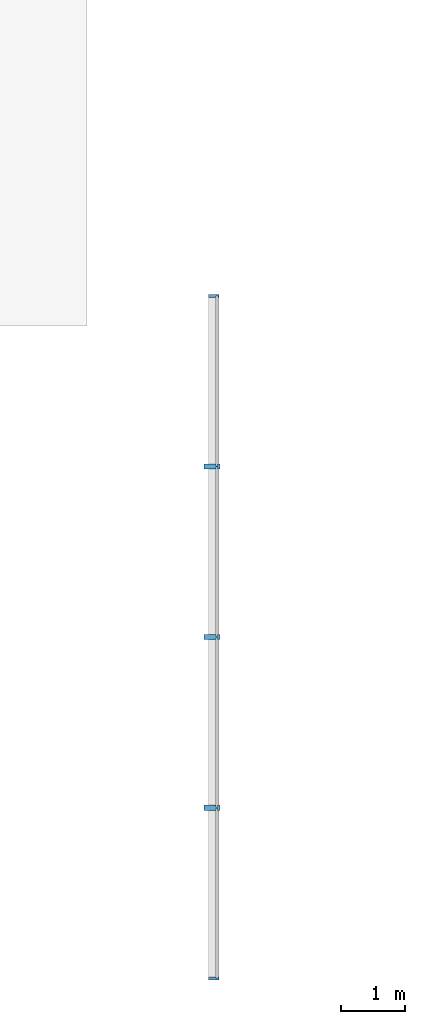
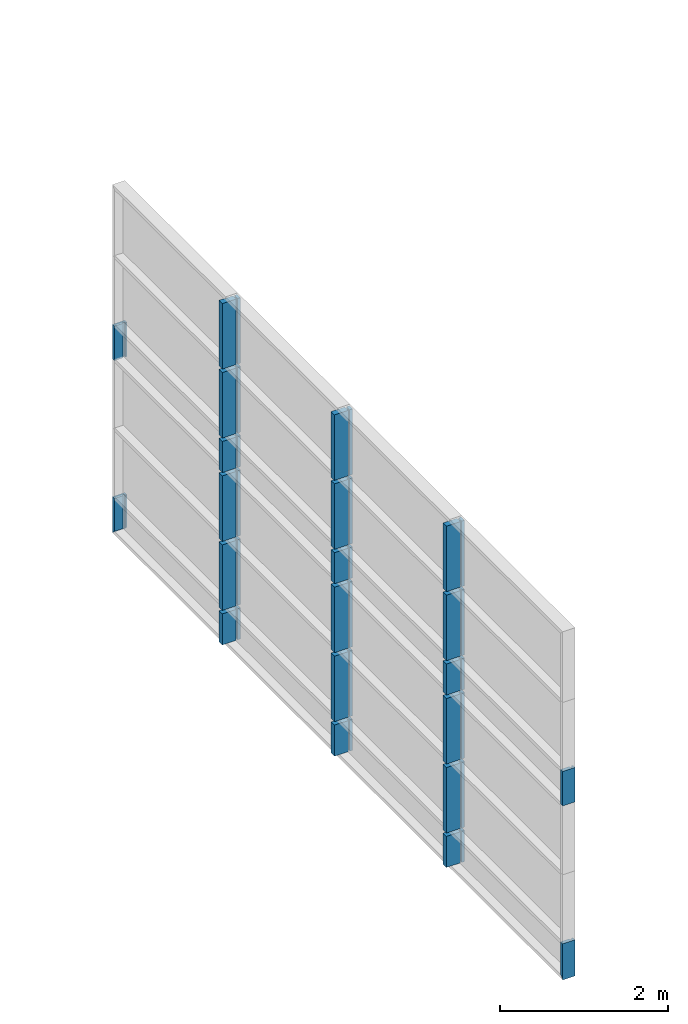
# One storey, part 12 of 19: 22 building element parts, 1 element without a shape of its own.
"""IFC4 building model written with IfcOpenShell, lengths in millimetres."""

from ifc_helpers import new_model, entity, si_unit, converted_unit, derived_unit, direction, frame, origin_with_axes, place, context, subcontext, project, spatial, triangles, material, element, aggregate, save


model = new_model("IFC4")

# Units and contexts
model_context = context("Model", 3, precision=1e-05, world=origin_with_axes(), true_north=direction((0.0, 1.0)))
body_context = subcontext(model_context, "Body", "Model", "MODEL_VIEW")
ifc_project = project(units=[si_unit("LENGTHUNIT", "METRE", prefix="MILLI"), si_unit("AREAUNIT", "SQUARE_METRE"), si_unit("VOLUMEUNIT", "CUBIC_METRE"), converted_unit("PLANEANGLEUNIT", "DEGREE", entity("IfcLengthMeasure", 0.017453), si_unit("PLANEANGLEUNIT", "RADIAN"), dimensions=[0, 0, 0, 0, 0, 0, 0]), si_unit("SOLIDANGLEUNIT", "STERADIAN"), si_unit("MASSUNIT", "GRAM"), si_unit("TIMEUNIT", "SECOND"), si_unit("THERMODYNAMICTEMPERATUREUNIT", "DEGREE_CELSIUS"), si_unit("LUMINOUSINTENSITYUNIT", "LUMEN"), si_unit("POWERUNIT", "WATT"), derived_unit("THERMALTRANSMITTANCEUNIT", [(si_unit("POWERUNIT", "WATT"), 1), (si_unit("THERMODYNAMICTEMPERATUREUNIT", "KELVIN"), -1), (si_unit("AREAUNIT", "SQUARE_METRE"), -1)])], contexts=[model_context])

# Site, building, storey
site_placement = place(None, origin_with_axes())
site = spatial("IfcSite", under=ifc_project, at=site_placement, Name="Default Site", CompositionType="ELEMENT")
building_placement = place(site_placement, origin_with_axes())
building = spatial("IfcBuilding", under=site, at=building_placement, Name="Default Building", CompositionType="ELEMENT")
storey_placement = place(building_placement, frame((0.0, 0.0, 3000.0), z_axis=(0.0, 0.0, 1.0), x_axis=(1.0, 0.0, 0.0)))
storey = spatial("IfcBuildingStorey", under=building, at=storey_placement, Name="EG - Story", CompositionType="ELEMENT", Elevation=3000.0)

# Curtain wall, building element parts
curtain_wall_placement = place(storey_placement, origin_with_axes())
curtain_wall = element("IfcCurtainWall", 1, at=curtain_wall_placement, inside=storey, Name="Fassade-013", PredefinedType="NOTDEFINED")
ifc_material = material(Name="Blech")
building_element_part_1_placement = place(curtain_wall_placement, frame((51421.391327, -49908.012838, 0.0), z_axis=(0.0, 0.0, 1.0), x_axis=(1.0, 0.0, 0.0)))
building_element_part_1 = element("IfcBuildingElementPart", 2, at=building_element_part_1_placement, material=ifc_material, Name="Blech", PredefinedType="NOTDEFINED", context=body_context, shape_type="Tessellation", body=[
    triangles([(35.0, -1356.249, 500.0), (35.0, -1306.249, 500.0), (15.0, -1306.249, 500.0), (15.0, -1326.249, 500.0), (-14.999, -1326.249, 500.0), (-132.999, -1306.249, 500.0), (-132.999, -1356.249, 500.0), (-14.999, -1306.249, 500.0), (-14.999, -1326.249, 5.0), (-14.999, -1306.249, 25.0), (-132.999, -1306.249, 25.0), (-132.999, -1356.249, -24.999), (35.0, -1356.249, -24.999), (35.0, -1306.249, 25.0), (15.0, -1306.249, 25.0), (15.0, -1326.249, 5.0)], [[1, 2, 3], [1, 3, 4], [1, 4, 5], [1, 5, 6], [1, 6, 7], [8, 6, 5], [5, 9, 10], [5, 10, 8], [10, 11, 6], [10, 6, 8], [6, 11, 12], [6, 12, 7], [7, 12, 13], [7, 13, 1], [1, 13, 14], [1, 14, 2], [3, 2, 14], [3, 14, 15], [15, 16, 4], [15, 4, 3], [4, 16, 9], [4, 9, 5], [16, 9, 12], [16, 12, 13], [16, 13, 14], [16, 14, 15], [11, 12, 9], [11, 9, 10]], closed=False),
])
building_element_part_2_placement = place(curtain_wall_placement, frame((51421.391327, -49908.012838, 0.0), z_axis=(0.0, 0.0, 1.0), x_axis=(1.0, 0.0, 0.0)))
building_element_part_2 = element("IfcBuildingElementPart", 3, at=building_element_part_2_placement, material=ifc_material, Name="Blech", PredefinedType="NOTDEFINED", context=body_context, shape_type="Tessellation", body=[
    triangles([(50.0, 1371.25, 475.0), (10.0, 1371.25, 475.0), (50.0, 1291.25, 475.0), (10.0, 1341.25, 475.0), (10.0, 1321.25, 475.0), (-9.999, 1341.25, 475.0), (-9.999, 1321.25, 475.0), (-9.999, 1291.25, 475.0), (-9.999, 1371.25, 475.0), (-199.999, 1371.25, 475.0), (-199.999, 1291.25, 475.0), (10.0, 1291.25, 475.0), (-9.999, 1341.25, 25.0), (-9.999, 1371.25, 25.0), (-199.999, 1371.25, 25.0), (-199.999, 1291.25, 25.0), (-9.999, 1291.25, 25.0), (-9.999, 1321.25, 25.0), (10.0, 1321.25, 25.0), (10.0, 1291.25, 25.0), (50.0, 1291.25, 25.0), (50.0, 1371.25, 25.0), (10.0, 1371.25, 25.0), (10.0, 1341.25, 25.0)], [[1, 2, 3], [3, 2, 4], [3, 4, 5], [5, 4, 6], [5, 6, 7], [8, 9, 10], [8, 10, 11], [3, 5, 12], [9, 6, 13], [9, 13, 14], [9, 14, 15], [9, 15, 10], [10, 15, 16], [10, 16, 11], [8, 11, 16], [8, 16, 17], [8, 17, 18], [8, 18, 7], [7, 18, 19], [7, 19, 5], [12, 5, 19], [12, 19, 20], [20, 21, 3], [20, 3, 12], [3, 21, 22], [3, 22, 1], [23, 2, 1], [23, 1, 22], [4, 2, 23], [4, 23, 24], [6, 4, 24], [6, 24, 13], [21, 20, 22], [22, 20, 19], [22, 19, 24], [24, 19, 18], [24, 18, 13], [14, 17, 16], [14, 16, 15], [22, 24, 23]], closed=False),
])
building_element_part_3_placement = place(curtain_wall_placement, frame((51421.391327, -49908.012838, 0.0), z_axis=(0.0, 0.0, 1.0), x_axis=(1.0, 0.0, 0.0)))
building_element_part_3 = element("IfcBuildingElementPart", 4, at=building_element_part_3_placement, material=ifc_material, Name="Blech", PredefinedType="NOTDEFINED", context=body_context, shape_type="Tessellation", body=[
    triangles([(50.0, 4033.75, 475.0), (10.0, 4033.75, 475.0), (50.0, 3953.75, 475.0), (10.0, 4003.75, 475.0), (10.0, 3983.75, 475.0), (-9.999, 4003.75, 475.0), (-9.999, 3983.75, 475.0), (-9.999, 3953.75, 475.0), (-9.999, 4033.75, 475.0), (-199.999, 4033.75, 475.0), (-199.999, 3953.75, 475.0), (10.0, 3953.75, 475.0), (-9.999, 4003.75, 25.0), (-9.999, 4033.75, 25.0), (-199.999, 4033.75, 25.0), (-199.999, 3953.75, 25.0), (-9.999, 3953.75, 25.0), (-9.999, 3983.75, 25.0), (10.0, 3983.75, 25.0), (10.0, 3953.75, 25.0), (50.0, 3953.75, 25.0), (50.0, 4033.75, 25.0), (10.0, 4033.75, 25.0), (10.0, 4003.75, 25.0)], [[1, 2, 3], [3, 2, 4], [3, 4, 5], [5, 4, 6], [5, 6, 7], [8, 9, 10], [8, 10, 11], [3, 5, 12], [9, 6, 13], [9, 13, 14], [9, 14, 15], [9, 15, 10], [10, 15, 16], [10, 16, 11], [8, 11, 16], [8, 16, 17], [8, 17, 18], [8, 18, 7], [7, 18, 19], [7, 19, 5], [12, 5, 19], [12, 19, 20], [20, 21, 3], [20, 3, 12], [3, 21, 22], [3, 22, 1], [23, 2, 1], [23, 1, 22], [4, 2, 23], [4, 23, 24], [6, 4, 24], [6, 24, 13], [21, 20, 22], [22, 20, 19], [22, 19, 24], [24, 19, 18], [24, 18, 13], [14, 17, 16], [14, 16, 15], [22, 24, 23]], closed=False),
])
building_element_part_4_placement = place(curtain_wall_placement, frame((51421.391327, -49908.012838, 0.0), z_axis=(0.0, 0.0, 1.0), x_axis=(1.0, 0.0, 0.0)))
building_element_part_4 = element("IfcBuildingElementPart", 5, at=building_element_part_4_placement, material=ifc_material, Name="Blech", PredefinedType="NOTDEFINED", context=body_context, shape_type="Tessellation", body=[
    triangles([(15.0, 9293.75, 500.0), (15.0, 9313.75, 500.0), (35.0, 9343.75, 500.0), (-14.999, 9313.75, 500.0), (-132.999, 9293.75, 500.0), (-14.999, 9293.75, 500.0), (-132.999, 9343.75, 500.0), (35.0, 9293.75, 500.0), (-14.999, 9313.75, 5.0), (15.0, 9313.75, 5.0), (15.0, 9293.75, 25.0), (35.0, 9293.75, 25.0), (35.0, 9343.75, -24.999), (-132.999, 9343.75, -24.999), (-132.999, 9293.75, 25.0), (-14.999, 9293.75, 25.0)], [[1, 2, 3], [3, 2, 4], [3, 4, 5], [5, 4, 6], [3, 5, 7], [1, 3, 8], [2, 4, 9], [2, 9, 10], [11, 1, 2], [11, 2, 10], [1, 11, 12], [1, 12, 8], [3, 8, 12], [3, 12, 13], [7, 3, 13], [7, 13, 14], [5, 7, 14], [5, 14, 15], [16, 6, 5], [16, 5, 15], [4, 6, 16], [4, 16, 9], [16, 15, 9], [9, 15, 14], [9, 14, 10], [10, 14, 13], [10, 13, 12], [10, 12, 11]], closed=False),
])
building_element_part_5_placement = place(curtain_wall_placement, frame((51421.391327, -49908.012838, 0.0), z_axis=(0.0, 0.0, 1.0), x_axis=(1.0, 0.0, 0.0)))
building_element_part_5 = element("IfcBuildingElementPart", 6, at=building_element_part_5_placement, material=ifc_material, Name="Blech", PredefinedType="NOTDEFINED", context=body_context, shape_type="Tessellation", body=[
    triangles([(50.0, 6696.25, 475.0), (10.0, 6696.25, 475.0), (50.0, 6616.25, 475.0), (10.0, 6666.25, 475.0), (10.0, 6646.25, 475.0), (-9.999, 6666.25, 475.0), (-9.999, 6646.25, 475.0), (-9.999, 6616.25, 475.0), (-9.999, 6696.25, 475.0), (-199.999, 6696.25, 475.0), (-199.999, 6616.25, 475.0), (10.0, 6616.25, 475.0), (-9.999, 6666.25, 25.0), (-9.999, 6696.25, 25.0), (-199.999, 6696.25, 25.0), (-199.999, 6616.25, 25.0), (-9.999, 6616.25, 25.0), (-9.999, 6646.25, 25.0), (10.0, 6646.25, 25.0), (10.0, 6616.25, 25.0), (50.0, 6616.25, 25.0), (50.0, 6696.25, 25.0), (10.0, 6696.25, 25.0), (10.0, 6666.25, 25.0)], [[1, 2, 3], [3, 2, 4], [3, 4, 5], [5, 4, 6], [5, 6, 7], [8, 9, 10], [8, 10, 11], [3, 5, 12], [9, 6, 13], [9, 13, 14], [9, 14, 15], [9, 15, 10], [10, 15, 16], [10, 16, 11], [8, 11, 16], [8, 16, 17], [8, 17, 18], [8, 18, 7], [7, 18, 19], [7, 19, 5], [12, 5, 19], [12, 19, 20], [20, 21, 3], [20, 3, 12], [3, 21, 22], [3, 22, 1], [23, 2, 1], [23, 1, 22], [4, 2, 23], [4, 23, 24], [6, 4, 24], [6, 24, 13], [21, 20, 22], [22, 20, 19], [22, 19, 24], [24, 19, 18], [24, 18, 13], [14, 17, 16], [14, 16, 15], [22, 24, 23]], closed=False),
])
building_element_part_6_placement = place(curtain_wall_placement, frame((51421.391327, -49908.012838, 0.0), z_axis=(0.0, 0.0, 1.0), x_axis=(1.0, 0.0, 0.0)))
building_element_part_6 = element("IfcBuildingElementPart", 7, at=building_element_part_6_placement, material=ifc_material, Name="Blech", PredefinedType="NOTDEFINED", context=body_context, shape_type="Tessellation", body=[
    triangles([(50.0, 1371.25, 1475.0), (10.0, 1371.25, 1475.0), (50.0, 1291.25, 1475.0), (10.0, 1341.25, 1475.0), (10.0, 1321.25, 1475.0), (-9.999, 1341.25, 1475.0), (-9.999, 1321.25, 1475.0), (-9.999, 1291.25, 1475.0), (-9.999, 1371.25, 1475.0), (-199.999, 1371.25, 1475.0), (-199.999, 1291.25, 1475.0), (10.0, 1291.25, 1475.0), (-9.999, 1341.25, 525.0), (-9.999, 1371.25, 525.0), (-199.999, 1371.25, 525.0), (-199.999, 1291.25, 525.0), (-9.999, 1291.25, 525.0), (-9.999, 1321.25, 525.0), (10.0, 1321.25, 525.0), (10.0, 1291.25, 525.0), (50.0, 1291.25, 525.0), (50.0, 1371.25, 525.0), (10.0, 1371.25, 525.0), (10.0, 1341.25, 525.0)], [[1, 2, 3], [3, 2, 4], [3, 4, 5], [5, 4, 6], [5, 6, 7], [8, 9, 10], [8, 10, 11], [3, 5, 12], [9, 6, 13], [9, 13, 14], [9, 14, 15], [9, 15, 10], [10, 15, 16], [10, 16, 11], [8, 11, 16], [8, 16, 17], [8, 17, 18], [8, 18, 7], [7, 18, 19], [7, 19, 5], [12, 5, 19], [12, 19, 20], [20, 21, 3], [20, 3, 12], [3, 21, 22], [3, 22, 1], [23, 2, 1], [23, 1, 22], [4, 2, 23], [4, 23, 24], [6, 4, 24], [6, 24, 13], [21, 20, 22], [22, 20, 19], [22, 19, 24], [24, 19, 18], [24, 18, 13], [14, 17, 16], [14, 16, 15], [22, 24, 23]], closed=False),
])
building_element_part_7_placement = place(curtain_wall_placement, frame((51421.391327, -49908.012838, 0.0), z_axis=(0.0, 0.0, 1.0), x_axis=(1.0, 0.0, 0.0)))
building_element_part_7 = element("IfcBuildingElementPart", 8, at=building_element_part_7_placement, material=ifc_material, Name="Blech", PredefinedType="NOTDEFINED", context=body_context, shape_type="Tessellation", body=[
    triangles([(50.0, 4033.75, 1475.0), (10.0, 4033.75, 1475.0), (50.0, 3953.75, 1475.0), (10.0, 4003.75, 1475.0), (10.0, 3983.75, 1475.0), (-9.999, 4003.75, 1475.0), (-9.999, 3983.75, 1475.0), (-9.999, 3953.75, 1475.0), (-9.999, 4033.75, 1475.0), (-199.999, 4033.75, 1475.0), (-199.999, 3953.75, 1475.0), (10.0, 3953.75, 1475.0), (-9.999, 4003.75, 525.0), (-9.999, 4033.75, 525.0), (-199.999, 4033.75, 525.0), (-199.999, 3953.75, 525.0), (-9.999, 3953.75, 525.0), (-9.999, 3983.75, 525.0), (10.0, 3983.75, 525.0), (10.0, 3953.75, 525.0), (50.0, 3953.75, 525.0), (50.0, 4033.75, 525.0), (10.0, 4033.75, 525.0), (10.0, 4003.75, 525.0)], [[1, 2, 3], [3, 2, 4], [3, 4, 5], [5, 4, 6], [5, 6, 7], [8, 9, 10], [8, 10, 11], [3, 5, 12], [9, 6, 13], [9, 13, 14], [9, 14, 15], [9, 15, 10], [10, 15, 16], [10, 16, 11], [8, 11, 16], [8, 16, 17], [8, 17, 18], [8, 18, 7], [7, 18, 19], [7, 19, 5], [12, 5, 19], [12, 19, 20], [20, 21, 3], [20, 3, 12], [3, 21, 22], [3, 22, 1], [23, 2, 1], [23, 1, 22], [4, 2, 23], [4, 23, 24], [6, 4, 24], [6, 24, 13], [21, 20, 22], [22, 20, 19], [22, 19, 24], [24, 19, 18], [24, 18, 13], [14, 17, 16], [14, 16, 15], [22, 24, 23]], closed=False),
])
building_element_part_8_placement = place(curtain_wall_placement, frame((51421.391327, -49908.012838, 0.0), z_axis=(0.0, 0.0, 1.0), x_axis=(1.0, 0.0, 0.0)))
building_element_part_8 = element("IfcBuildingElementPart", 9, at=building_element_part_8_placement, material=ifc_material, Name="Blech", PredefinedType="NOTDEFINED", context=body_context, shape_type="Tessellation", body=[
    triangles([(50.0, 6696.25, 1475.0), (10.0, 6696.25, 1475.0), (50.0, 6616.25, 1475.0), (10.0, 6666.25, 1475.0), (10.0, 6646.25, 1475.0), (-9.999, 6666.25, 1475.0), (-9.999, 6646.25, 1475.0), (-9.999, 6616.25, 1475.0), (-9.999, 6696.25, 1475.0), (-199.999, 6696.25, 1475.0), (-199.999, 6616.25, 1475.0), (10.0, 6616.25, 1475.0), (-9.999, 6666.25, 525.0), (-9.999, 6696.25, 525.0), (-199.999, 6696.25, 525.0), (-199.999, 6616.25, 525.0), (-9.999, 6616.25, 525.0), (-9.999, 6646.25, 525.0), (10.0, 6646.25, 525.0), (10.0, 6616.25, 525.0), (50.0, 6616.25, 525.0), (50.0, 6696.25, 525.0), (10.0, 6696.25, 525.0), (10.0, 6666.25, 525.0)], [[1, 2, 3], [3, 2, 4], [3, 4, 5], [5, 4, 6], [5, 6, 7], [8, 9, 10], [8, 10, 11], [3, 5, 12], [9, 6, 13], [9, 13, 14], [9, 14, 15], [9, 15, 10], [10, 15, 16], [10, 16, 11], [8, 11, 16], [8, 16, 17], [8, 17, 18], [8, 18, 7], [7, 18, 19], [7, 19, 5], [12, 5, 19], [12, 19, 20], [20, 21, 3], [20, 3, 12], [3, 21, 22], [3, 22, 1], [23, 2, 1], [23, 1, 22], [4, 2, 23], [4, 23, 24], [6, 4, 24], [6, 24, 13], [21, 20, 22], [22, 20, 19], [22, 19, 24], [24, 19, 18], [24, 18, 13], [14, 17, 16], [14, 16, 15], [22, 24, 23]], closed=False),
])
building_element_part_9_placement = place(curtain_wall_placement, frame((51421.391327, -49908.012838, 0.0), z_axis=(0.0, 0.0, 1.0), x_axis=(1.0, 0.0, 0.0)))
building_element_part_9 = element("IfcBuildingElementPart", 10, at=building_element_part_9_placement, material=ifc_material, Name="Blech", PredefinedType="NOTDEFINED", context=body_context, shape_type="Tessellation", body=[
    triangles([(50.0, 1371.25, 2475.0), (10.0, 1371.25, 2475.0), (50.0, 1291.25, 2475.0), (10.0, 1341.25, 2475.0), (10.0, 1321.25, 2475.0), (-9.999, 1341.25, 2475.0), (-9.999, 1321.25, 2475.0), (-9.999, 1291.25, 2475.0), (-9.999, 1371.25, 2475.0), (-199.999, 1371.25, 2475.0), (-199.999, 1291.25, 2475.0), (10.0, 1291.25, 2475.0), (-9.999, 1341.25, 1525.0), (-9.999, 1371.25, 1525.0), (-199.999, 1371.25, 1525.0), (-199.999, 1291.25, 1525.0), (-9.999, 1291.25, 1525.0), (-9.999, 1321.25, 1525.0), (10.0, 1321.25, 1525.0), (10.0, 1291.25, 1525.0), (50.0, 1291.25, 1525.0), (50.0, 1371.25, 1525.0), (10.0, 1371.25, 1525.0), (10.0, 1341.25, 1525.0)], [[1, 2, 3], [3, 2, 4], [3, 4, 5], [5, 4, 6], [5, 6, 7], [8, 9, 10], [8, 10, 11], [3, 5, 12], [9, 6, 13], [9, 13, 14], [9, 14, 15], [9, 15, 10], [10, 15, 16], [10, 16, 11], [8, 11, 16], [8, 16, 17], [8, 17, 18], [8, 18, 7], [7, 18, 19], [7, 19, 5], [12, 5, 19], [12, 19, 20], [20, 21, 3], [20, 3, 12], [3, 21, 22], [3, 22, 1], [23, 2, 1], [23, 1, 22], [4, 2, 23], [4, 23, 24], [6, 4, 24], [6, 24, 13], [21, 20, 22], [22, 20, 19], [22, 19, 24], [24, 19, 18], [24, 18, 13], [14, 17, 16], [14, 16, 15], [22, 24, 23]], closed=False),
])
building_element_part_10_placement = place(curtain_wall_placement, frame((51421.391327, -49908.012838, 0.0), z_axis=(0.0, 0.0, 1.0), x_axis=(1.0, 0.0, 0.0)))
building_element_part_10 = element("IfcBuildingElementPart", 11, at=building_element_part_10_placement, material=ifc_material, Name="Blech", PredefinedType="NOTDEFINED", context=body_context, shape_type="Tessellation", body=[
    triangles([(50.0, 4033.75, 2475.0), (10.0, 4033.75, 2475.0), (50.0, 3953.75, 2475.0), (10.0, 4003.75, 2475.0), (10.0, 3983.75, 2475.0), (-9.999, 4003.75, 2475.0), (-9.999, 3983.75, 2475.0), (-9.999, 3953.75, 2475.0), (-9.999, 4033.75, 2475.0), (-199.999, 4033.75, 2475.0), (-199.999, 3953.75, 2475.0), (10.0, 3953.75, 2475.0), (-9.999, 4003.75, 1525.0), (-9.999, 4033.75, 1525.0), (-199.999, 4033.75, 1525.0), (-199.999, 3953.75, 1525.0), (-9.999, 3953.75, 1525.0), (-9.999, 3983.75, 1525.0), (10.0, 3983.75, 1525.0), (10.0, 3953.75, 1525.0), (50.0, 3953.75, 1525.0), (50.0, 4033.75, 1525.0), (10.0, 4033.75, 1525.0), (10.0, 4003.75, 1525.0)], [[1, 2, 3], [3, 2, 4], [3, 4, 5], [5, 4, 6], [5, 6, 7], [8, 9, 10], [8, 10, 11], [3, 5, 12], [9, 6, 13], [9, 13, 14], [9, 14, 15], [9, 15, 10], [10, 15, 16], [10, 16, 11], [8, 11, 16], [8, 16, 17], [8, 17, 18], [8, 18, 7], [7, 18, 19], [7, 19, 5], [12, 5, 19], [12, 19, 20], [20, 21, 3], [20, 3, 12], [3, 21, 22], [3, 22, 1], [23, 2, 1], [23, 1, 22], [4, 2, 23], [4, 23, 24], [6, 4, 24], [6, 24, 13], [21, 20, 22], [22, 20, 19], [22, 19, 24], [24, 19, 18], [24, 18, 13], [14, 17, 16], [14, 16, 15], [22, 24, 23]], closed=False),
])
building_element_part_11_placement = place(curtain_wall_placement, frame((51421.391327, -49908.012838, 0.0), z_axis=(0.0, 0.0, 1.0), x_axis=(1.0, 0.0, 0.0)))
building_element_part_11 = element("IfcBuildingElementPart", 12, at=building_element_part_11_placement, material=ifc_material, Name="Blech", PredefinedType="NOTDEFINED", context=body_context, shape_type="Tessellation", body=[
    triangles([(50.0, 6696.25, 2475.0), (10.0, 6696.25, 2475.0), (50.0, 6616.25, 2475.0), (10.0, 6666.25, 2475.0), (10.0, 6646.25, 2475.0), (-9.999, 6666.25, 2475.0), (-9.999, 6646.25, 2475.0), (-9.999, 6616.25, 2475.0), (-9.999, 6696.25, 2475.0), (-199.999, 6696.25, 2475.0), (-199.999, 6616.25, 2475.0), (10.0, 6616.25, 2475.0), (-9.999, 6666.25, 1525.0), (-9.999, 6696.25, 1525.0), (-199.999, 6696.25, 1525.0), (-199.999, 6616.25, 1525.0), (-9.999, 6616.25, 1525.0), (-9.999, 6646.25, 1525.0), (10.0, 6646.25, 1525.0), (10.0, 6616.25, 1525.0), (50.0, 6616.25, 1525.0), (50.0, 6696.25, 1525.0), (10.0, 6696.25, 1525.0), (10.0, 6666.25, 1525.0)], [[1, 2, 3], [3, 2, 4], [3, 4, 5], [5, 4, 6], [5, 6, 7], [8, 9, 10], [8, 10, 11], [3, 5, 12], [9, 6, 13], [9, 13, 14], [9, 14, 15], [9, 15, 10], [10, 15, 16], [10, 16, 11], [8, 11, 16], [8, 16, 17], [8, 17, 18], [8, 18, 7], [7, 18, 19], [7, 19, 5], [12, 5, 19], [12, 19, 20], [20, 21, 3], [20, 3, 12], [3, 21, 22], [3, 22, 1], [23, 2, 1], [23, 1, 22], [4, 2, 23], [4, 23, 24], [6, 4, 24], [6, 24, 13], [21, 20, 22], [22, 20, 19], [22, 19, 24], [24, 19, 18], [24, 18, 13], [14, 17, 16], [14, 16, 15], [22, 24, 23]], closed=False),
])
building_element_part_12_placement = place(curtain_wall_placement, frame((51421.391327, -49908.012838, 0.0), z_axis=(0.0, 0.0, 1.0), x_axis=(1.0, 0.0, 0.0)))
building_element_part_12 = element("IfcBuildingElementPart", 13, at=building_element_part_12_placement, material=ifc_material, Name="Blech", PredefinedType="NOTDEFINED", context=body_context, shape_type="Tessellation", body=[
    triangles([(35.0, -1356.249, 3000.0), (35.0, -1306.249, 3000.0), (15.0, -1306.249, 3000.0), (15.0, -1326.249, 3000.0), (-14.999, -1326.249, 3000.0), (-132.999, -1306.249, 3000.0), (-132.999, -1356.249, 3000.0), (-14.999, -1306.249, 3000.0), (-14.999, -1326.249, 2500.0), (-14.999, -1306.249, 2500.0), (-132.999, -1306.249, 2500.0), (-132.999, -1356.249, 2500.0), (35.0, -1356.249, 2500.0), (35.0, -1306.249, 2500.0), (15.0, -1306.249, 2500.0), (15.0, -1326.249, 2500.0)], [[1, 2, 3], [1, 3, 4], [1, 4, 5], [1, 5, 6], [1, 6, 7], [8, 6, 5], [5, 9, 10], [5, 10, 8], [10, 11, 6], [10, 6, 8], [11, 12, 7], [11, 7, 6], [12, 13, 1], [12, 1, 7], [13, 14, 2], [13, 2, 1], [3, 2, 14], [3, 14, 15], [15, 16, 4], [15, 4, 3], [4, 16, 9], [4, 9, 5], [15, 16, 13], [13, 16, 9], [13, 9, 11], [11, 9, 10], [13, 11, 12], [15, 13, 14]], closed=False),
])
building_element_part_13_placement = place(curtain_wall_placement, frame((51421.391327, -49908.012838, 0.0), z_axis=(0.0, 0.0, 1.0), x_axis=(1.0, 0.0, 0.0)))
building_element_part_13 = element("IfcBuildingElementPart", 14, at=building_element_part_13_placement, material=ifc_material, Name="Blech", PredefinedType="NOTDEFINED", context=body_context, shape_type="Tessellation", body=[
    triangles([(50.0, 1371.25, 2975.0), (10.0, 1371.25, 2975.0), (50.0, 1291.25, 2975.0), (10.0, 1341.25, 2975.0), (10.0, 1321.25, 2975.0), (-9.999, 1341.25, 2975.0), (-9.999, 1321.25, 2975.0), (-9.999, 1291.25, 2975.0), (-9.999, 1371.25, 2975.0), (-199.999, 1371.25, 2975.0), (-199.999, 1291.25, 2975.0), (10.0, 1291.25, 2975.0), (-9.999, 1341.25, 2525.0), (-9.999, 1371.25, 2525.0), (-199.999, 1371.25, 2525.0), (-199.999, 1291.25, 2525.0), (-9.999, 1291.25, 2525.0), (-9.999, 1321.25, 2525.0), (10.0, 1321.25, 2525.0), (10.0, 1291.25, 2525.0), (50.0, 1291.25, 2525.0), (50.0, 1371.25, 2525.0), (10.0, 1371.25, 2525.0), (10.0, 1341.25, 2525.0)], [[1, 2, 3], [3, 2, 4], [3, 4, 5], [5, 4, 6], [5, 6, 7], [8, 9, 10], [8, 10, 11], [3, 5, 12], [9, 6, 13], [9, 13, 14], [9, 14, 15], [9, 15, 10], [10, 15, 16], [10, 16, 11], [8, 11, 16], [8, 16, 17], [8, 17, 18], [8, 18, 7], [7, 18, 19], [7, 19, 5], [12, 5, 19], [12, 19, 20], [20, 21, 3], [20, 3, 12], [3, 21, 22], [3, 22, 1], [23, 2, 1], [23, 1, 22], [4, 2, 23], [4, 23, 24], [6, 4, 24], [6, 24, 13], [21, 20, 22], [22, 20, 19], [22, 19, 24], [24, 19, 18], [24, 18, 13], [14, 17, 16], [14, 16, 15], [22, 24, 23]], closed=False),
])
building_element_part_14_placement = place(curtain_wall_placement, frame((51421.391327, -49908.012838, 0.0), z_axis=(0.0, 0.0, 1.0), x_axis=(1.0, 0.0, 0.0)))
building_element_part_14 = element("IfcBuildingElementPart", 15, at=building_element_part_14_placement, material=ifc_material, Name="Blech", PredefinedType="NOTDEFINED", context=body_context, shape_type="Tessellation", body=[
    triangles([(50.0, 4033.75, 2975.0), (10.0, 4033.75, 2975.0), (50.0, 3953.75, 2975.0), (10.0, 4003.75, 2975.0), (10.0, 3983.75, 2975.0), (-9.999, 4003.75, 2975.0), (-9.999, 3983.75, 2975.0), (-9.999, 3953.75, 2975.0), (-9.999, 4033.75, 2975.0), (-199.999, 4033.75, 2975.0), (-199.999, 3953.75, 2975.0), (10.0, 3953.75, 2975.0), (-9.999, 4003.75, 2525.0), (-9.999, 4033.75, 2525.0), (-199.999, 4033.75, 2525.0), (-199.999, 3953.75, 2525.0), (-9.999, 3953.75, 2525.0), (-9.999, 3983.75, 2525.0), (10.0, 3983.75, 2525.0), (10.0, 3953.75, 2525.0), (50.0, 3953.75, 2525.0), (50.0, 4033.75, 2525.0), (10.0, 4033.75, 2525.0), (10.0, 4003.75, 2525.0)], [[1, 2, 3], [3, 2, 4], [3, 4, 5], [5, 4, 6], [5, 6, 7], [8, 9, 10], [8, 10, 11], [3, 5, 12], [9, 6, 13], [9, 13, 14], [9, 14, 15], [9, 15, 10], [10, 15, 16], [10, 16, 11], [8, 11, 16], [8, 16, 17], [8, 17, 18], [8, 18, 7], [7, 18, 19], [7, 19, 5], [12, 5, 19], [12, 19, 20], [20, 21, 3], [20, 3, 12], [3, 21, 22], [3, 22, 1], [23, 2, 1], [23, 1, 22], [4, 2, 23], [4, 23, 24], [6, 4, 24], [6, 24, 13], [21, 20, 22], [22, 20, 19], [22, 19, 24], [24, 19, 18], [24, 18, 13], [14, 17, 16], [14, 16, 15], [22, 24, 23]], closed=False),
])
building_element_part_15_placement = place(curtain_wall_placement, frame((51421.391327, -49908.012838, 0.0), z_axis=(0.0, 0.0, 1.0), x_axis=(1.0, 0.0, 0.0)))
building_element_part_15 = element("IfcBuildingElementPart", 16, at=building_element_part_15_placement, material=ifc_material, Name="Blech", PredefinedType="NOTDEFINED", context=body_context, shape_type="Tessellation", body=[
    triangles([(15.0, 9293.75, 3000.0), (15.0, 9313.75, 3000.0), (35.0, 9343.75, 3000.0), (-14.999, 9313.75, 3000.0), (-132.999, 9293.75, 3000.0), (-14.999, 9293.75, 3000.0), (-132.999, 9343.75, 3000.0), (35.0, 9293.75, 3000.0), (-14.999, 9313.75, 2500.0), (15.0, 9313.75, 2500.0), (15.0, 9293.75, 2500.0), (35.0, 9293.75, 2500.0), (35.0, 9343.75, 2500.0), (-132.999, 9343.75, 2500.0), (-132.999, 9293.75, 2500.0), (-14.999, 9293.75, 2500.0)], [[1, 2, 3], [3, 2, 4], [3, 4, 5], [5, 4, 6], [3, 5, 7], [1, 3, 8], [2, 4, 9], [2, 9, 10], [11, 1, 2], [11, 2, 10], [1, 11, 12], [1, 12, 8], [13, 3, 8], [13, 8, 12], [14, 7, 3], [14, 3, 13], [15, 5, 7], [15, 7, 14], [16, 6, 5], [16, 5, 15], [4, 6, 16], [4, 16, 9], [13, 12, 11], [13, 11, 10], [13, 10, 9], [13, 9, 15], [13, 15, 14], [16, 15, 9]], closed=False),
])
building_element_part_16_placement = place(curtain_wall_placement, frame((51421.391327, -49908.012838, 0.0), z_axis=(0.0, 0.0, 1.0), x_axis=(1.0, 0.0, 0.0)))
building_element_part_16 = element("IfcBuildingElementPart", 17, at=building_element_part_16_placement, material=ifc_material, Name="Blech", PredefinedType="NOTDEFINED", context=body_context, shape_type="Tessellation", body=[
    triangles([(50.0, 6696.25, 2975.0), (10.0, 6696.25, 2975.0), (50.0, 6616.25, 2975.0), (10.0, 6666.25, 2975.0), (10.0, 6646.25, 2975.0), (-9.999, 6666.25, 2975.0), (-9.999, 6646.25, 2975.0), (-9.999, 6616.25, 2975.0), (-9.999, 6696.25, 2975.0), (-199.999, 6696.25, 2975.0), (-199.999, 6616.25, 2975.0), (10.0, 6616.25, 2975.0), (-9.999, 6666.25, 2525.0), (-9.999, 6696.25, 2525.0), (-199.999, 6696.25, 2525.0), (-199.999, 6616.25, 2525.0), (-9.999, 6616.25, 2525.0), (-9.999, 6646.25, 2525.0), (10.0, 6646.25, 2525.0), (10.0, 6616.25, 2525.0), (50.0, 6616.25, 2525.0), (50.0, 6696.25, 2525.0), (10.0, 6696.25, 2525.0), (10.0, 6666.25, 2525.0)], [[1, 2, 3], [3, 2, 4], [3, 4, 5], [5, 4, 6], [5, 6, 7], [8, 9, 10], [8, 10, 11], [3, 5, 12], [9, 6, 13], [9, 13, 14], [9, 14, 15], [9, 15, 10], [10, 15, 16], [10, 16, 11], [8, 11, 16], [8, 16, 17], [8, 17, 18], [8, 18, 7], [7, 18, 19], [7, 19, 5], [12, 5, 19], [12, 19, 20], [20, 21, 3], [20, 3, 12], [3, 21, 22], [3, 22, 1], [23, 2, 1], [23, 1, 22], [4, 2, 23], [4, 23, 24], [6, 4, 24], [6, 24, 13], [21, 20, 22], [22, 20, 19], [22, 19, 24], [24, 19, 18], [24, 18, 13], [14, 17, 16], [14, 16, 15], [22, 24, 23]], closed=False),
])
building_element_part_17_placement = place(curtain_wall_placement, frame((51421.391327, -49908.012838, 0.0), z_axis=(0.0, 0.0, 1.0), x_axis=(1.0, 0.0, 0.0)))
building_element_part_17 = element("IfcBuildingElementPart", 18, at=building_element_part_17_placement, material=ifc_material, Name="Blech", PredefinedType="NOTDEFINED", context=body_context, shape_type="Tessellation", body=[
    triangles([(50.0, 1371.25, 3975.0), (10.0, 1371.25, 3975.0), (50.0, 1291.25, 3975.0), (10.0, 1341.25, 3975.0), (10.0, 1321.25, 3975.0), (-9.999, 1341.25, 3975.0), (-9.999, 1321.25, 3975.0), (-9.999, 1291.25, 3975.0), (-9.999, 1371.25, 3975.0), (-199.999, 1371.25, 3975.0), (-199.999, 1291.25, 3975.0), (10.0, 1291.25, 3975.0), (-9.999, 1341.25, 3025.0), (-9.999, 1371.25, 3025.0), (-199.999, 1371.25, 3025.0), (-199.999, 1291.25, 3025.0), (-9.999, 1291.25, 3025.0), (-9.999, 1321.25, 3025.0), (10.0, 1321.25, 3025.0), (10.0, 1291.25, 3025.0), (50.0, 1291.25, 3025.0), (50.0, 1371.25, 3025.0), (10.0, 1371.25, 3025.0), (10.0, 1341.25, 3025.0)], [[1, 2, 3], [3, 2, 4], [3, 4, 5], [5, 4, 6], [5, 6, 7], [8, 9, 10], [8, 10, 11], [3, 5, 12], [9, 6, 13], [9, 13, 14], [9, 14, 15], [9, 15, 10], [10, 15, 16], [10, 16, 11], [8, 11, 16], [8, 16, 17], [8, 17, 18], [8, 18, 7], [7, 18, 19], [7, 19, 5], [12, 5, 19], [12, 19, 20], [20, 21, 3], [20, 3, 12], [3, 21, 22], [3, 22, 1], [23, 2, 1], [23, 1, 22], [4, 2, 23], [4, 23, 24], [6, 4, 24], [6, 24, 13], [21, 20, 22], [22, 20, 19], [22, 19, 24], [24, 19, 18], [24, 18, 13], [14, 17, 16], [14, 16, 15], [22, 24, 23]], closed=False),
])
building_element_part_18_placement = place(curtain_wall_placement, frame((51421.391327, -49908.012838, 0.0), z_axis=(0.0, 0.0, 1.0), x_axis=(1.0, 0.0, 0.0)))
building_element_part_18 = element("IfcBuildingElementPart", 19, at=building_element_part_18_placement, material=ifc_material, Name="Blech", PredefinedType="NOTDEFINED", context=body_context, shape_type="Tessellation", body=[
    triangles([(50.0, 4033.75, 3975.0), (10.0, 4033.75, 3975.0), (50.0, 3953.75, 3975.0), (10.0, 4003.75, 3975.0), (10.0, 3983.75, 3975.0), (-9.999, 4003.75, 3975.0), (-9.999, 3983.75, 3975.0), (-9.999, 3953.75, 3975.0), (-9.999, 4033.75, 3975.0), (-199.999, 4033.75, 3975.0), (-199.999, 3953.75, 3975.0), (10.0, 3953.75, 3975.0), (-9.999, 4003.75, 3025.0), (-9.999, 4033.75, 3025.0), (-199.999, 4033.75, 3025.0), (-199.999, 3953.75, 3025.0), (-9.999, 3953.75, 3025.0), (-9.999, 3983.75, 3025.0), (10.0, 3983.75, 3025.0), (10.0, 3953.75, 3025.0), (50.0, 3953.75, 3025.0), (50.0, 4033.75, 3025.0), (10.0, 4033.75, 3025.0), (10.0, 4003.75, 3025.0)], [[1, 2, 3], [3, 2, 4], [3, 4, 5], [5, 4, 6], [5, 6, 7], [8, 9, 10], [8, 10, 11], [3, 5, 12], [9, 6, 13], [9, 13, 14], [9, 14, 15], [9, 15, 10], [10, 15, 16], [10, 16, 11], [8, 11, 16], [8, 16, 17], [8, 17, 18], [8, 18, 7], [7, 18, 19], [7, 19, 5], [12, 5, 19], [12, 19, 20], [20, 21, 3], [20, 3, 12], [3, 21, 22], [3, 22, 1], [23, 2, 1], [23, 1, 22], [4, 2, 23], [4, 23, 24], [6, 4, 24], [6, 24, 13], [21, 20, 22], [22, 20, 19], [22, 19, 24], [24, 19, 18], [24, 18, 13], [14, 17, 16], [14, 16, 15], [22, 24, 23]], closed=False),
])
building_element_part_19_placement = place(curtain_wall_placement, frame((51421.391327, -49908.012838, 0.0), z_axis=(0.0, 0.0, 1.0), x_axis=(1.0, 0.0, 0.0)))
building_element_part_19 = element("IfcBuildingElementPart", 20, at=building_element_part_19_placement, material=ifc_material, Name="Blech", PredefinedType="NOTDEFINED", context=body_context, shape_type="Tessellation", body=[
    triangles([(50.0, 6696.25, 3975.0), (10.0, 6696.25, 3975.0), (50.0, 6616.25, 3975.0), (10.0, 6666.25, 3975.0), (10.0, 6646.25, 3975.0), (-9.999, 6666.25, 3975.0), (-9.999, 6646.25, 3975.0), (-9.999, 6616.25, 3975.0), (-9.999, 6696.25, 3975.0), (-199.999, 6696.25, 3975.0), (-199.999, 6616.25, 3975.0), (10.0, 6616.25, 3975.0), (-9.999, 6666.25, 3025.0), (-9.999, 6696.25, 3025.0), (-199.999, 6696.25, 3025.0), (-199.999, 6616.25, 3025.0), (-9.999, 6616.25, 3025.0), (-9.999, 6646.25, 3025.0), (10.0, 6646.25, 3025.0), (10.0, 6616.25, 3025.0), (50.0, 6616.25, 3025.0), (50.0, 6696.25, 3025.0), (10.0, 6696.25, 3025.0), (10.0, 6666.25, 3025.0)], [[1, 2, 3], [3, 2, 4], [3, 4, 5], [5, 4, 6], [5, 6, 7], [8, 9, 10], [8, 10, 11], [3, 5, 12], [9, 6, 13], [9, 13, 14], [9, 14, 15], [9, 15, 10], [10, 15, 16], [10, 16, 11], [8, 11, 16], [8, 16, 17], [8, 17, 18], [8, 18, 7], [7, 18, 19], [7, 19, 5], [12, 5, 19], [12, 19, 20], [20, 21, 3], [20, 3, 12], [3, 21, 22], [3, 22, 1], [23, 2, 1], [23, 1, 22], [4, 2, 23], [4, 23, 24], [6, 4, 24], [6, 24, 13], [21, 20, 22], [22, 20, 19], [22, 19, 24], [24, 19, 18], [24, 18, 13], [14, 17, 16], [14, 16, 15], [22, 24, 23]], closed=False),
])
building_element_part_20_placement = place(curtain_wall_placement, frame((51421.391327, -49908.012838, 0.0), z_axis=(0.0, 0.0, 1.0), x_axis=(1.0, 0.0, 0.0)))
building_element_part_20 = element("IfcBuildingElementPart", 21, at=building_element_part_20_placement, material=ifc_material, Name="Blech", PredefinedType="NOTDEFINED", context=body_context, shape_type="Tessellation", body=[
    triangles([(50.0, 1371.25, 4975.0), (10.0, 1371.25, 4975.0), (50.0, 1291.25, 4975.0), (10.0, 1341.25, 4975.0), (10.0, 1321.25, 4975.0), (-9.999, 1341.25, 4975.0), (-9.999, 1321.25, 4975.0), (-9.999, 1291.25, 4975.0), (-9.999, 1371.25, 4975.0), (-199.999, 1371.25, 4975.0), (-199.999, 1291.25, 4975.0), (10.0, 1291.25, 4975.0), (-9.999, 1341.25, 4025.0), (-9.999, 1371.25, 4025.0), (-199.999, 1371.25, 4025.0), (-199.999, 1291.25, 4025.0), (-9.999, 1291.25, 4025.0), (-9.999, 1321.25, 4025.0), (10.0, 1321.25, 4025.0), (10.0, 1291.25, 4025.0), (50.0, 1291.25, 4025.0), (50.0, 1371.25, 4025.0), (10.0, 1371.25, 4025.0), (10.0, 1341.25, 4025.0)], [[1, 2, 3], [3, 2, 4], [3, 4, 5], [5, 4, 6], [5, 6, 7], [8, 9, 10], [8, 10, 11], [3, 5, 12], [9, 6, 13], [9, 13, 14], [9, 14, 15], [9, 15, 10], [10, 15, 16], [10, 16, 11], [8, 11, 16], [8, 16, 17], [8, 17, 18], [8, 18, 7], [7, 18, 19], [7, 19, 5], [12, 5, 19], [12, 19, 20], [20, 21, 3], [20, 3, 12], [3, 21, 22], [3, 22, 1], [23, 2, 1], [23, 1, 22], [4, 2, 23], [4, 23, 24], [6, 4, 24], [6, 24, 13], [21, 20, 22], [22, 20, 19], [22, 19, 24], [24, 19, 18], [24, 18, 13], [14, 17, 16], [14, 16, 15], [22, 24, 23]], closed=False),
])
building_element_part_21_placement = place(curtain_wall_placement, frame((51421.391327, -49908.012838, 0.0), z_axis=(0.0, 0.0, 1.0), x_axis=(1.0, 0.0, 0.0)))
building_element_part_21 = element("IfcBuildingElementPart", 22, at=building_element_part_21_placement, material=ifc_material, Name="Blech", PredefinedType="NOTDEFINED", context=body_context, shape_type="Tessellation", body=[
    triangles([(50.0, 4033.75, 4975.0), (10.0, 4033.75, 4975.0), (50.0, 3953.75, 4975.0), (10.0, 4003.75, 4975.0), (10.0, 3983.75, 4975.0), (-9.999, 4003.75, 4975.0), (-9.999, 3983.75, 4975.0), (-9.999, 3953.75, 4975.0), (-9.999, 4033.75, 4975.0), (-199.999, 4033.75, 4975.0), (-199.999, 3953.75, 4975.0), (10.0, 3953.75, 4975.0), (-9.999, 4003.75, 4025.0), (-9.999, 4033.75, 4025.0), (-199.999, 4033.75, 4025.0), (-199.999, 3953.75, 4025.0), (-9.999, 3953.75, 4025.0), (-9.999, 3983.75, 4025.0), (10.0, 3983.75, 4025.0), (10.0, 3953.75, 4025.0), (50.0, 3953.75, 4025.0), (50.0, 4033.75, 4025.0), (10.0, 4033.75, 4025.0), (10.0, 4003.75, 4025.0)], [[1, 2, 3], [3, 2, 4], [3, 4, 5], [5, 4, 6], [5, 6, 7], [8, 9, 10], [8, 10, 11], [3, 5, 12], [9, 6, 13], [9, 13, 14], [9, 14, 15], [9, 15, 10], [10, 15, 16], [10, 16, 11], [8, 11, 16], [8, 16, 17], [8, 17, 18], [8, 18, 7], [7, 18, 19], [7, 19, 5], [12, 5, 19], [12, 19, 20], [20, 21, 3], [20, 3, 12], [3, 21, 22], [3, 22, 1], [23, 2, 1], [23, 1, 22], [4, 2, 23], [4, 23, 24], [6, 4, 24], [6, 24, 13], [21, 20, 22], [22, 20, 19], [22, 19, 24], [24, 19, 18], [24, 18, 13], [14, 17, 16], [14, 16, 15], [22, 24, 23]], closed=False),
])
building_element_part_22_placement = place(curtain_wall_placement, frame((51421.391327, -49908.012838, 0.0), z_axis=(0.0, 0.0, 1.0), x_axis=(1.0, 0.0, 0.0)))
building_element_part_22 = element("IfcBuildingElementPart", 23, at=building_element_part_22_placement, material=ifc_material, Name="Blech", PredefinedType="NOTDEFINED", context=body_context, shape_type="Tessellation", body=[
    triangles([(50.0, 6696.25, 4975.0), (10.0, 6696.25, 4975.0), (50.0, 6616.25, 4975.0), (10.0, 6666.25, 4975.0), (10.0, 6646.25, 4975.0), (-9.999, 6666.25, 4975.0), (-9.999, 6646.25, 4975.0), (-9.999, 6616.25, 4975.0), (-9.999, 6696.25, 4975.0), (-199.999, 6696.25, 4975.0), (-199.999, 6616.25, 4975.0), (10.0, 6616.25, 4975.0), (-9.999, 6666.25, 4025.0), (-9.999, 6696.25, 4025.0), (-199.999, 6696.25, 4025.0), (-199.999, 6616.25, 4025.0), (-9.999, 6616.25, 4025.0), (-9.999, 6646.25, 4025.0), (10.0, 6646.25, 4025.0), (10.0, 6616.25, 4025.0), (50.0, 6616.25, 4025.0), (50.0, 6696.25, 4025.0), (10.0, 6696.25, 4025.0), (10.0, 6666.25, 4025.0)], [[1, 2, 3], [3, 2, 4], [3, 4, 5], [5, 4, 6], [5, 6, 7], [8, 9, 10], [8, 10, 11], [3, 5, 12], [9, 6, 13], [9, 13, 14], [9, 14, 15], [9, 15, 10], [10, 15, 16], [10, 16, 11], [8, 11, 16], [8, 16, 17], [8, 17, 18], [8, 18, 7], [7, 18, 19], [7, 19, 5], [12, 5, 19], [12, 19, 20], [20, 21, 3], [20, 3, 12], [3, 21, 22], [3, 22, 1], [23, 2, 1], [23, 1, 22], [4, 2, 23], [4, 23, 24], [6, 4, 24], [6, 24, 13], [21, 20, 22], [22, 20, 19], [22, 19, 24], [24, 19, 18], [24, 18, 13], [14, 17, 16], [14, 16, 15], [22, 24, 23]], closed=False),
])
aggregate(curtain_wall, [building_element_part_1, building_element_part_2, building_element_part_3, building_element_part_4, building_element_part_5, building_element_part_6, building_element_part_7, building_element_part_8, building_element_part_9, building_element_part_10, building_element_part_11, building_element_part_12, building_element_part_13, building_element_part_14, building_element_part_15, building_element_part_16, building_element_part_17, building_element_part_18, building_element_part_19, building_element_part_20, building_element_part_21, building_element_part_22])

save(model, "model.ifc")
